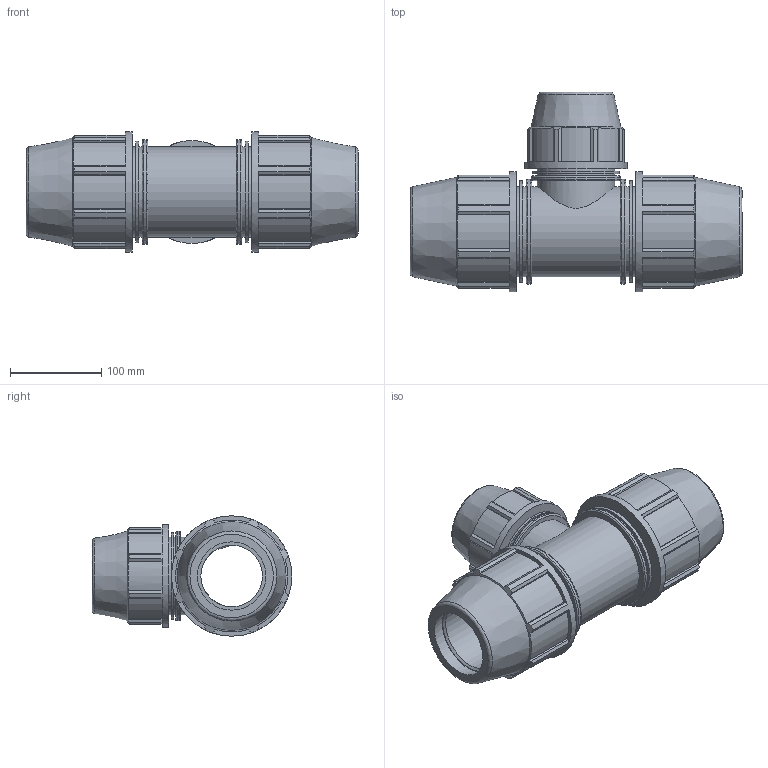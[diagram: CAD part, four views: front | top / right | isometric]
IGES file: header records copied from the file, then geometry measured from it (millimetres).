
Global section: file name: 873400075063_183400075063.ipt; native system: Autodesk Inventor 2015; preprocessor: unknown; author: KIM; date: 20170608.042726; units: millimetre
Bounding box: 364 x 219 x 132 mm (x, y, z)
Volume: 2504099.8 mm3; surface area: 328880.9 mm2
Topology: 1 solids, 1 shells, 211 faces, 586 edges, 397 vertices
Faces by surface type: plane 144, cylinder 41, revolution 20, cone 6
Full cylindrical faces by diameter (mm): 84.75 x3, 95.361 x1, 98.31 x1, 99 x5, 111.395 x2, 113 x1, 114.84 x2, 132 x2
